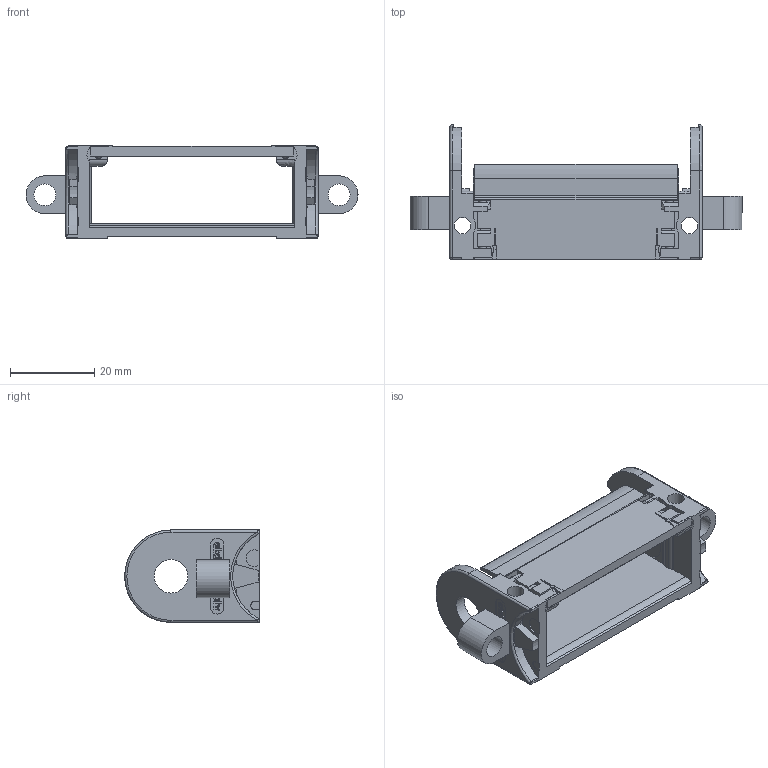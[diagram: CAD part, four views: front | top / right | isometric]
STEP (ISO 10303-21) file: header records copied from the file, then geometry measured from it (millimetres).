
FILE_DESCRIPTION((''),'2;1');
FILE_NAME('C:\Uebbing\PARAMETERKETTEN\KOLIBRI\Kol_22_060_5\KOLIBRI 22_060_5_SFA_Bohrung.stp','2013-04-16T12:57:17',('Uebbing'),(''),'Autodesk Inventor 10','Autodesk Inventor 10','');
FILE_SCHEMA(('AUTOMOTIVE_DESIGN { 1 0 10303 214 1 1 1 1 }'));
Length unit declared in the file: millimetre
Products named in the file (3): KOLIBRI 22_060_5_SFA_Bohrung; Kol_22_060_5_Stirnflansch Bohrung; Kol_22_060_5_Klappdeckel geschnitten2
Assembly tree (2 placements, depth 2):
  KOLIBRI 22_060_5_SFA_Bohrung
    Kol_22_060_5_Stirnflansch Bohrung
    Kol_22_060_5_Klappdeckel geschnitten2
Bounding box: 79 x 32 x 22.1 mm (x, y, z)
Volume: 8361.2 mm3; surface area: 10398.6 mm2
Topology: 4 solids, 10 shells, 659 faces, 1841 edges, 1200 vertices
Faces by surface type: bspline 315, plane 232, cylinder 105, torus 3, sphere 2, cone 2
Full cylindrical faces by diameter (mm): 0.804 x1, 1.412 x1, 1.8 x2, 2 x2, 4 x2, 5.2 x1, 8 x1
Entity records: 22814 total; most frequent: CARTESIAN_POINT 6653, ORIENTED_EDGE 3606, DIRECTION 2883, EDGE_CURVE 1803, VECTOR 1341, LINE 1341, VERTEX_POINT 1186, AXIS2_PLACEMENT_3D 771
